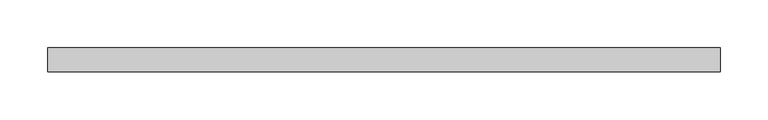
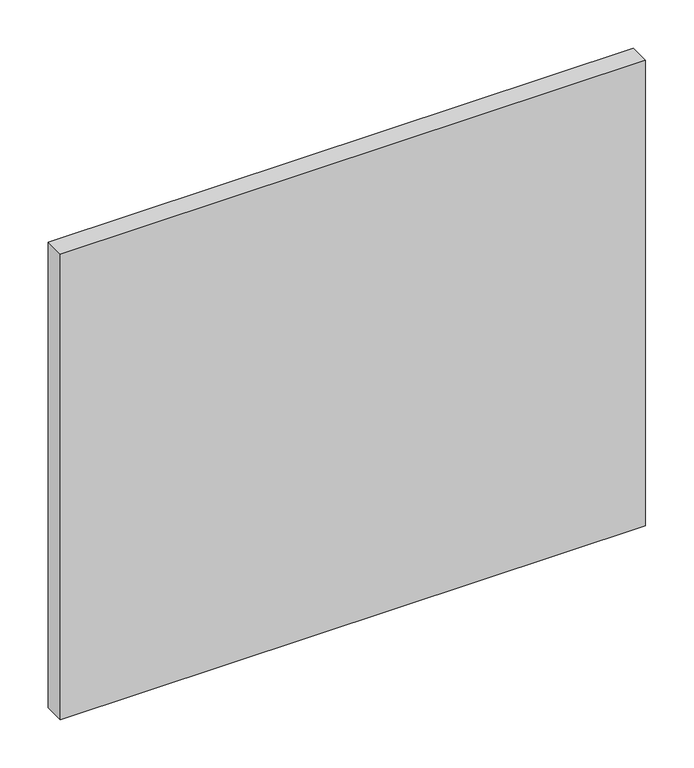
"""IFC4 building model written with IfcOpenShell, lengths in millimetres: plate geometry, 系统嵌板 : 玻璃."""

from ifc_helpers import new_model, si_unit, origin, origin_with_axes, place, context, project, spatial, polyline, outline, extrude, source, transform, mapped, element, save


def plate_0be1c703(model_context):
    return source(origin(), model_context, "Body", "SweptSolid", [
        extrude(outline(polyline([(350.9482126, -12.5), (-350.9482126, -12.5), (-350.9482126, 12.5), (350.9482126, 12.5), (350.9482126, -12.5)])), origin_with_axes(), (0.0, 0.0, 1.0), 590.0),
    ])


if __name__ == "__main__":
    model = new_model("IFC4")
    model_context = context("Model", 3, world=origin())
    ifc_project = project(units=[si_unit("LENGTHUNIT", "METRE", prefix="MILLI")], contexts=[model_context])
    site = spatial("IfcSite", under=ifc_project)
    building = spatial("IfcBuilding", under=site)
    placement = place(None, origin())
    plate_shape = plate_0be1c703(model_context)
    element("IfcPlate", 1, ObjectType="系统嵌板 : 玻璃", at=placement, inside=building, context=model_context, shape_type="MappedRepresentation", body=[
        mapped(plate_shape, transform((0.0, 0.0, 0.0), x_axis=(1.0, 0.0, 0.0), y_axis=(0.0, 1.0, 0.0), z_axis=(0.0, 0.0, 1.0))),
    ])
    save(model, "model.ifc")
